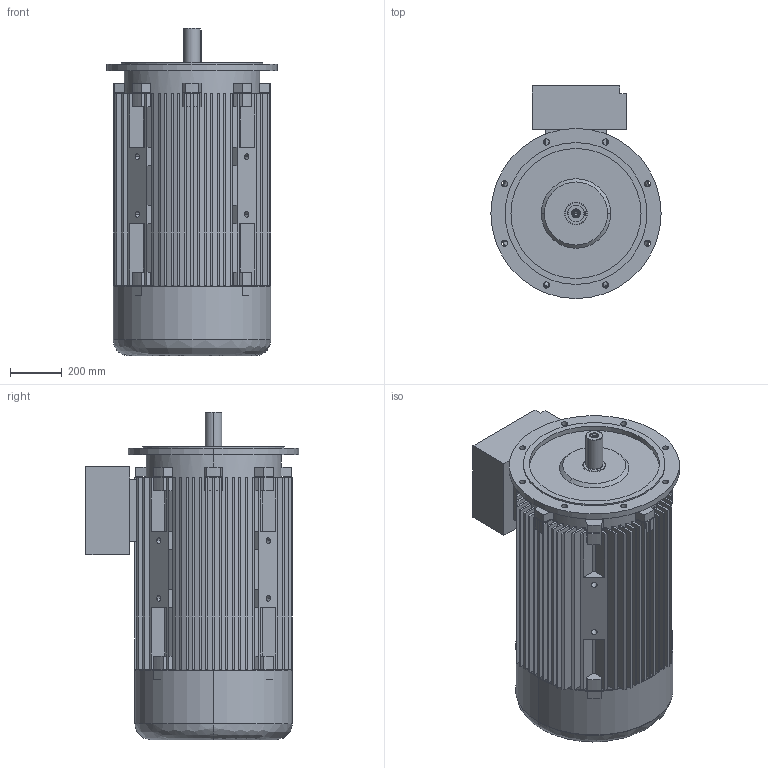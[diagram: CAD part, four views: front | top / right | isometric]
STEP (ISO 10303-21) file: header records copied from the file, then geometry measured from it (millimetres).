
FILE_DESCRIPTION (( 'STEP AP203' ), '1' );
FILE_NAME ('20.17513_B 7AT 315S&M -2 B5 STANDK.STEP', '2018-04-11T13:00:09', ( '' ), ( '' ), 'SwSTEP 2.0', 'SolidWorks 2017', '' );
FILE_SCHEMA (( 'CONFIG_CONTROL_DESIGN' ));
Length unit declared in the file: millimetre
Products named in the file (1): 20.17513_B 7AT 315S&M -2 B5 STANDK
Bounding box: 660 x 827 x 1270 mm (x, y, z)
Volume: 100633919.5 mm3; surface area: 11258916.3 mm2
Topology: 5 solids, 5 shells, 783 faces, 2095 edges, 1377 vertices
Faces by surface type: plane 610, cylinder 126, cone 34, bspline 13
Entity records: 25035 total; most frequent: CARTESIAN_POINT 5083, ORIENTED_EDGE 4154, DIRECTION 4079, EDGE_CURVE 2077, LINE 1549, VECTOR 1549, VERTEX_POINT 1377, AXIS2_PLACEMENT_3D 1265
